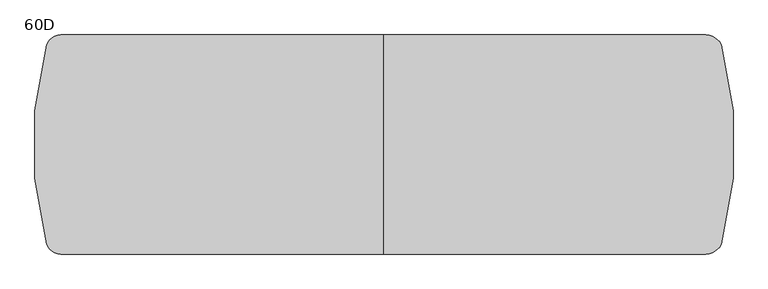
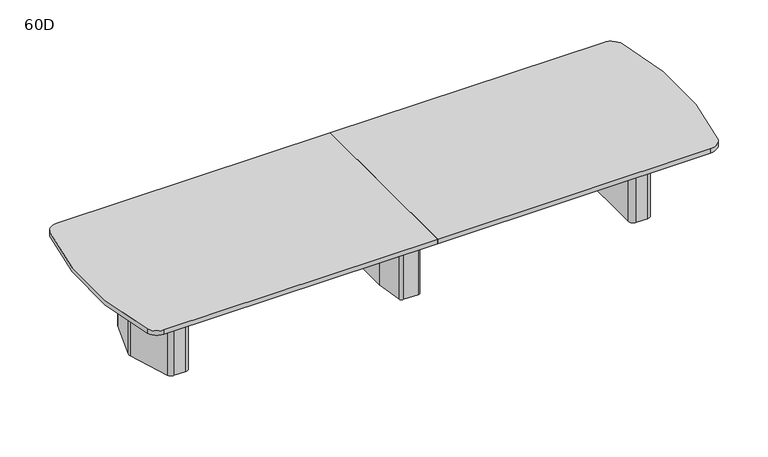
"""IFC4 building model written with IfcOpenShell, lengths in millimetres: furniture geometry, Coalesse_AM_Table_Conference_ETable2_SoftRadiused_16ft_ThreeBase : 60D."""

import ifcopenshell
import ifcopenshell.guid

model = None  # the IFC model being written
_history = None  # IfcOwnerHistory: only IFC2X3 demands one
_inside = {}  # id of a spatial element -> (the spatial element, [elements in it])
_under = {}  # id of a project, library or spatial element -> (it, [spatial elements below it])
_declared = {}  # id of a project -> (the project, [libraries it declares])
_typed = {}  # id of a type object -> (the type object, [elements of that type])
_made_of = {}  # id of a material, layer set ... -> (it, [elements and type objects made of it])


def new_model(schema):
    """Start an empty IFC model of exactly this schema.

    Asked for "IFC4X3", IfcOpenShell would pick the latest addendum, in which some entities
    have other attributes; the version numbers below select the first issue.
    IFC2X3 requires an IfcOwnerHistory on every rooted entity: one is made here for all.
    """
    global model, _history
    if schema == "IFC4X3":
        model = ifcopenshell.file(schema_version=(4, 3, 0, 0))
    else:
        model = ifcopenshell.file(schema=schema)
    _inside.clear()
    _under.clear()
    _declared.clear()
    _typed.clear()
    _made_of.clear()
    _history = None
    if model.schema == "IFC2X3":
        org = make("IfcOrganization", Name="unknown")
        user = make(
            "IfcPersonAndOrganization",
            ThePerson=make("IfcPerson", FamilyName="unknown"),
            TheOrganization=org,
        )
        app = make(
            "IfcApplication",
            ApplicationDeveloper=org,
            Version="unknown",
            ApplicationFullName="unknown",
            ApplicationIdentifier="unknown",
        )
        _history = make(
            "IfcOwnerHistory",
            OwningUser=user,
            OwningApplication=app,
            ChangeAction="ADDED",
            CreationDate=0,
        )
    return model


def make(cls, **values):
    """One entity of the class cls with the attributes given. An attribute that is None is left unset."""
    return model.create_entity(
        cls, **{name: value for name, value in values.items() if value is not None}
    )


def rooted(cls, **values):
    """An entity with a GlobalId (a new one), such as an element, a storey or a relation."""
    return make(cls, GlobalId=ifcopenshell.guid.new(), OwnerHistory=_history, **values)


def si_unit(unit_type, name, prefix=None):
    """IfcSIUnit, for example si_unit("LENGTHUNIT", "METRE", prefix="MILLI")."""
    return make("IfcSIUnit", UnitType=unit_type, Prefix=prefix, Name=name)


def assignment(units):
    """IfcUnitAssignment: the units of a project."""
    return None if units is None else make("IfcUnitAssignment", Units=units)


def point(xyz):
    """IfcCartesianPoint."""
    return None if xyz is None else make("IfcCartesianPoint", Coordinates=xyz)


def direction(xyz):
    """IfcDirection."""
    return None if xyz is None else make("IfcDirection", DirectionRatios=xyz)


def frame(location, z_axis=None, x_axis=None):
    """IfcAxis2Placement3D, a coordinate frame: its origin and axes. An axis left out is left unset."""
    return make(
        "IfcAxis2Placement3D",
        Location=point(location),
        Axis=direction(z_axis),
        RefDirection=direction(x_axis),
    )


def frame_2d(location, x_axis=None):
    """IfcAxis2Placement2D, a coordinate frame in the plane: its origin and x axis."""
    return make(
        "IfcAxis2Placement2D", Location=point(location), RefDirection=direction(x_axis)
    )


def origin():
    """The frame at (0, 0, 0) with its axes left unset."""
    return frame((0.0, 0.0, 0.0))


def origin_with_axes():
    """The frame at (0, 0, 0) with the z axis (0, 0, 1) and the x axis (1, 0, 0) written out."""
    return frame((0.0, 0.0, 0.0), z_axis=(0.0, 0.0, 1.0), x_axis=(1.0, 0.0, 0.0))


def place(relative_to, where):
    """IfcLocalPlacement: puts the frame where relative to a parent placement (None: the world)."""
    return make(
        "IfcLocalPlacement", PlacementRelTo=relative_to, RelativePlacement=where
    )


def context(
    kind, dimensions, precision=None, world=None, true_north=None, identifier=None
):
    """IfcGeometricRepresentationContext, for example the 3D "Model" context."""
    return make(
        "IfcGeometricRepresentationContext",
        ContextIdentifier=identifier,
        ContextType=kind,
        CoordinateSpaceDimension=dimensions,
        Precision=precision,
        WorldCoordinateSystem=world,
        TrueNorth=true_north,
    )


def project(units=None, contexts=None):
    """IfcProject with its units and contexts."""
    return rooted(
        "IfcProject",
        Name="project",
        RepresentationContexts=contexts,
        UnitsInContext=assignment(units),
    )


def spatial(cls, under=None, at=None, **own):
    """A site, building, storey or space (cls), placed at a placement, below another one or the project."""
    s = rooted(cls, ObjectPlacement=at, **own)
    if under is not None:
        _under.setdefault(under.id(), (under, []))[1].append(s)
    return s


def polyline(points):
    """IfcPolyline through the points."""
    return make("IfcPolyline", Points=[point(p) for p in points])


def circle_curve(where, radius):
    """IfcCircle in the frame where."""
    return make("IfcCircle", Position=where, Radius=radius)


def trimmed(basis, trim1, trim2, sense, master):
    """IfcTrimmedCurve: the piece of a basis curve between two trims."""
    return make(
        "IfcTrimmedCurve",
        BasisCurve=basis,
        Trim1=trim1,
        Trim2=trim2,
        SenseAgreement=sense,
        MasterRepresentation=master,
    )


def segment(curve, same_sense, transition):
    """IfcCompositeCurveSegment."""
    return make(
        "IfcCompositeCurveSegment",
        Transition=transition,
        SameSense=same_sense,
        ParentCurve=curve,
    )


def composite_curve(segments, self_intersect=None):
    """IfcCompositeCurve: segments joined end to end."""
    return make("IfcCompositeCurve", Segments=segments, SelfIntersect=self_intersect)


def outline(outer, holes=None, kind="AREA"):
    """IfcArbitraryClosedProfileDef: a profile drawn as a closed curve; with holes, ...WithVoids."""
    if holes is None:
        return make("IfcArbitraryClosedProfileDef", ProfileType=kind, OuterCurve=outer)
    return make(
        "IfcArbitraryProfileDefWithVoids",
        ProfileType=kind,
        OuterCurve=outer,
        InnerCurves=holes,
    )


def extrude(swept, where, along, depth):
    """IfcExtrudedAreaSolid: the profile swept, set in the frame where, extruded along a direction by depth."""
    return make(
        "IfcExtrudedAreaSolid",
        SweptArea=swept,
        Position=where,
        ExtrudedDirection=direction(along),
        Depth=depth,
    )


def shape(context_of_items, identifier, shape_type, items):
    """IfcShapeRepresentation: the items that make up one representation, for example the "Body"."""
    return make(
        "IfcShapeRepresentation",
        ContextOfItems=context_of_items,
        RepresentationIdentifier=identifier,
        RepresentationType=shape_type,
        Items=items,
    )


def source(mapping_origin, context_of_items, identifier, shape_type, items):
    """IfcRepresentationMap: a shape defined once, which mapped items show again and again."""
    return make(
        "IfcRepresentationMap",
        MappingOrigin=mapping_origin,
        MappedRepresentation=shape(context_of_items, identifier, shape_type, items),
    )


def transform(
    local_origin,
    x_axis=None,
    y_axis=None,
    z_axis=None,
    scale=None,
    scale2=None,
    scale3=None,
    uniform=True,
):
    """IfcCartesianTransformationOperator3D, or its non-uniform kind. x_axis, y_axis, z_axis: its Axis1, 2, 3."""
    if uniform:
        return make(
            "IfcCartesianTransformationOperator3D",
            Axis1=direction(x_axis),
            Axis2=direction(y_axis),
            LocalOrigin=point(local_origin),
            Scale=scale,
            Axis3=direction(z_axis),
        )
    return make(
        "IfcCartesianTransformationOperator3DnonUniform",
        Axis1=direction(x_axis),
        Axis2=direction(y_axis),
        LocalOrigin=point(local_origin),
        Scale=scale,
        Axis3=direction(z_axis),
        Scale2=scale2,
        Scale3=scale3,
    )


def mapped(mapping_source, mapping_target):
    """IfcMappedItem: shows the shape of a source again, moved by a transform."""
    return make(
        "IfcMappedItem", MappingSource=mapping_source, MappingTarget=mapping_target
    )


def made_of(thing, what):
    """Note that an element or type object is made of a material, layer set ...; save() writes the relation."""
    if what is not None:
        _made_of.setdefault(what.id(), (what, []))[1].append(thing)
    return thing


def element(
    cls,
    number,
    at=None,
    inside=None,
    cuts=None,
    type_object=None,
    material=None,
    context=None,
    identifier="Body",
    shape_type=None,
    held_by="IfcProductDefinitionShape",
    body=None,
    shapes=None,
    **own,
):
    """One element of the class cls, such as IfcWall. Its Tag is "e" and its number.

    at: its placement. inside: the storey or other place that contains it. cuts: it is an
    opening in that element (IfcRelVoidsElement). A single representation is given by context,
    identifier, shape_type and body (its items); several are given by shapes. held_by: the class
    of the entity that holds the representations. save() writes the other relations.
    """
    e = rooted(cls, Tag="e%d" % number, ObjectPlacement=at, **own)
    if body is not None:
        shapes = [shape(context, identifier, shape_type, body)]
    if shapes is not None:
        e.Representation = make(held_by, Representations=shapes)
    if inside is not None:
        _inside.setdefault(inside.id(), (inside, []))[1].append(e)
    if cuts is not None:
        rooted(
            "IfcRelVoidsElement", RelatingBuildingElement=cuts, RelatedOpeningElement=e
        )
    if type_object is not None:
        _typed.setdefault(type_object.id(), (type_object, []))[1].append(e)
    return made_of(e, material)


def aggregate(whole, parts):
    """IfcRelAggregates: a whole, such as a stair, and the parts it consists of."""
    return rooted("IfcRelAggregates", RelatingObject=whole, RelatedObjects=parts)


def save(model, path):
    """Write the relations noted so far, then the file.

    IfcRelAggregates (storeys below a building ...), IfcRelContainedInSpatialStructure (elements
    in a storey), IfcRelDefinesByType, IfcRelAssociatesMaterial and IfcRelDeclares: one each for
    every whole, place, type object, material and project.
    """
    for whole, parts in _under.values():
        aggregate(whole, parts)
    for where, things in _inside.values():
        rooted(
            "IfcRelContainedInSpatialStructure",
            RelatedElements=things,
            RelatingStructure=where,
        )
    for kind, things in _typed.values():
        rooted("IfcRelDefinesByType", RelatedObjects=things, RelatingType=kind)
    for what, things in _made_of.values():
        rooted("IfcRelAssociatesMaterial", RelatedObjects=things, RelatingMaterial=what)
    for by, libraries in _declared.values():
        rooted("IfcRelDeclares", RelatingContext=by, RelatedDefinitions=libraries)
    model.write(path)


def plane_surface(at):
    """IfcPlane: the flat surface through the origin of the frame at, square to its z axis."""
    return make("IfcPlane", Position=at)


def cylinder_surface(at, radius):
    """IfcCylindricalSurface: all points at the distance radius from the z axis of the frame at."""
    return make("IfcCylindricalSurface", Position=at, Radius=radius)


def revolved_surface(curve, axis_point, axis_direction):
    """IfcSurfaceOfRevolution: the curve turned about the line through axis_point along axis_direction."""
    return make(
        "IfcSurfaceOfRevolution",
        SweptCurve=make("IfcArbitraryOpenProfileDef", ProfileType="CURVE", Curve=curve),
        AxisPosition=make("IfcAxis1Placement", Location=point(axis_point), Axis=direction(axis_direction)),
    )


def advanced_brep(points, edges, surfaces, faces):
    """IfcAdvancedBrep: a solid bounded by faces that lie on surfaces and meet in shared edges.

    An edge is (start, end): straight between two places in points (the first is 0);
    or (start, end, curve); or (start, end, curve, False) where it runs against its curve.
    A face is (place in surfaces, loops), or (place, loops, False) where it looks against
    its surface's normal. A loop lists edges by number (the first is 1), with a minus sign
    where the edge is run from its end to its start. The first loop is the outer one.
    """
    corners = [point(p) for p in points]
    vertices = [make("IfcVertexPoint", VertexGeometry=c) for c in corners]
    made = []
    for start, end, *more in edges:
        made.append(
            make(
                "IfcEdgeCurve",
                EdgeStart=vertices[start],
                EdgeEnd=vertices[end],
                EdgeGeometry=more[0] if more else make("IfcPolyline", Points=[corners[start], corners[end]]),
                SameSense=more[1] if len(more) > 1 else True,
            )
        )
    hull = []
    for where, loops, *sense in faces:
        bounds = []
        for j, loop in enumerate(loops):
            ring = [make("IfcOrientedEdge", EdgeElement=made[abs(k) - 1], Orientation=k > 0) for k in loop]
            bounds.append(
                make(
                    "IfcFaceOuterBound" if j == 0 else "IfcFaceBound",
                    Bound=make("IfcEdgeLoop", EdgeList=ring),
                    Orientation=True,
                )
            )
        hull.append(make("IfcAdvancedFace", Bounds=bounds, FaceSurface=surfaces[where], SameSense=sense[0] if sense else True))
    return make("IfcAdvancedBrep", Outer=make("IfcClosedShell", CfsFaces=hull))


def furniture_60d_4c5cccae(model_context):
    return source(origin(), model_context, "Body", "SolidModel", [
        advanced_brep(
        [(61.0357815, 381.0, 698.5), (-61.0357815, 381.0, 698.5), (-86.1885994, 359.1349332, 698.5), (-117.2278179, 138.2753661, 698.5), (-117.475, 134.740433, 698.5), (-117.475, -134.7404196, 698.5), (-117.2278463, -138.2751502, 698.5), (-86.1904395, -359.1347306, 698.5), (-61.0375932, -381.0, 698.5), (61.0375932, -381.0, 698.5), (86.1904395, -359.1347306, 698.5), (117.2278463, -138.2751502, 698.5), (117.475, -134.7404196, 698.5), (117.475, 134.740433, 698.5), (117.2278179, 138.2753661, 698.5), (86.1885994, 359.1349332, 698.5), (25.4, 314.325, 698.5), (50.8, 288.925, 698.5), (50.8, -288.925, 698.5), (25.4, -314.325, 698.5), (-25.4, -314.325, 698.5), (-50.8, -288.925, 698.5), (-50.8, 288.925, 698.5), (-25.4, 314.325, 698.5), (61.0357815, 381.0, 3.175), (86.1885994, 359.1349332, 3.175), (117.2278179, 138.2753661, 3.175), (117.475, 134.740433, 3.175), (117.475, -134.7404196, 3.175), (117.2278463, -138.2751502, 3.175), (86.1904395, -359.1347306, 3.175), (61.0375932, -381.0, 3.175), (-61.0375932, -381.0, 3.175), (-86.1904395, -359.1347306, 3.175), (-117.2278463, -138.2751502, 3.175), (-117.475, -134.7404196, 3.175), (-117.475, 134.740433, 3.175), (-117.2278179, 138.2753661, 3.175), (-86.1885994, 359.1349332, 3.175), (-61.0357815, 381.0, 3.175), (25.4, 327.025, 3.175), (-25.4, 327.025, 3.175), (-63.5, 288.925, 3.175), (-63.5, -288.925, 3.175), (-25.4, -327.025, 3.175), (25.4, -327.025, 3.175), (63.5, -288.925, 3.175), (63.5, 288.925, 3.175), (25.4, 314.325, 3.175), (50.8, 288.925, 3.175), (50.8, -288.925, 3.175), (25.4, -314.325, 3.175), (-25.4, -314.325, 3.175), (-50.8, -288.925, 3.175), (-50.8, 288.925, 3.175), (-25.4, 314.325, 3.175), (25.4, 327.025, 0.0), (63.5, 288.925, 0.0), (63.5, -288.925, 0.0), (25.4, -327.025, 0.0), (-25.4, -327.025, 0.0), (-63.5, -288.925, 0.0), (-63.5, 288.925, 0.0), (-25.4, 327.025, 0.0)],
        [
            (0, 1),
            (1, 2, circle_curve(frame((-61.0357815, 355.6, 698.5), z_axis=(0.0, 0.0, 1.0), x_axis=(1.0, 0.0, 0.0)), 25.4)),
            (2, 3),
            (3, 4, circle_curve(frame((-92.075, 134.740433, 698.5), z_axis=(0.0, 0.0, 1.0), x_axis=(1.0, 0.0, 0.0)), 25.4)),
            (4, 5),
            (5, 6, circle_curve(frame((-92.075, -134.7404196, 698.5), z_axis=(0.0, 0.0, 1.0), x_axis=(1.0, 0.0, 0.0)), 25.4)),
            (6, 7),
            (7, 8, circle_curve(frame((-61.0375932, -355.6, 698.5), z_axis=(0.0, 0.0, 1.0), x_axis=(1.0, 0.0, 0.0)), 25.4)),
            (8, 9),
            (9, 10, circle_curve(frame((61.0375932, -355.6, 698.5), z_axis=(0.0, 0.0, 1.0), x_axis=(1.0, 0.0, 0.0)), 25.4)),
            (10, 11),
            (11, 12, circle_curve(frame((92.075, -134.7404196, 698.5), z_axis=(0.0, 0.0, 1.0), x_axis=(1.0, 0.0, 0.0)), 25.4)),
            (12, 13),
            (13, 14, circle_curve(frame((92.075, 134.740433, 698.5), z_axis=(0.0, 0.0, 1.0), x_axis=(1.0, 0.0, 0.0)), 25.4)),
            (14, 15),
            (15, 0, circle_curve(frame((61.0357815, 355.6, 698.5), z_axis=(0.0, 0.0, 1.0), x_axis=(1.0, 0.0, 0.0)), 25.4)),
            (16, 17, circle_curve(frame((25.4, 288.925, 698.5), z_axis=(0.0, 0.0, -1.0), x_axis=(1.0, 0.0, 0.0)), 25.4)),
            (17, 18),
            (18, 19, circle_curve(frame((25.4, -288.925, 698.5), z_axis=(0.0, 0.0, -1.0), x_axis=(1.0, 0.0, 0.0)), 25.4)),
            (19, 20),
            (20, 21, circle_curve(frame((-25.4, -288.925, 698.5), z_axis=(0.0, 0.0, -1.0), x_axis=(1.0, 0.0, 0.0)), 25.4)),
            (21, 22),
            (22, 23, circle_curve(frame((-25.4, 288.925, 698.5), z_axis=(0.0, 0.0, -1.0), x_axis=(1.0, 0.0, 0.0)), 25.4)),
            (23, 16),
            (24, 25, circle_curve(frame((61.0357815, 355.6, 3.175), z_axis=(0.0, 0.0, -1.0), x_axis=(1.0, 0.0, 0.0)), 25.4)),
            (25, 26),
            (26, 27, circle_curve(frame((92.075, 134.740433, 3.175), z_axis=(0.0, 0.0, -1.0), x_axis=(1.0, 0.0, 0.0)), 25.4)),
            (27, 28),
            (28, 29, circle_curve(frame((92.075, -134.7404196, 3.175), z_axis=(0.0, 0.0, -1.0), x_axis=(1.0, 0.0, 0.0)), 25.4)),
            (29, 30),
            (30, 31, circle_curve(frame((61.0375932, -355.6, 3.175), z_axis=(0.0, 0.0, -1.0), x_axis=(1.0, 0.0, 0.0)), 25.4)),
            (31, 32),
            (32, 33, circle_curve(frame((-61.0375932, -355.6, 3.175), z_axis=(0.0, 0.0, -1.0), x_axis=(1.0, 0.0, 0.0)), 25.4)),
            (33, 34),
            (34, 35, circle_curve(frame((-92.075, -134.7404196, 3.175), z_axis=(0.0, 0.0, -1.0), x_axis=(1.0, 0.0, 0.0)), 25.4)),
            (35, 36),
            (36, 37, circle_curve(frame((-92.075, 134.740433, 3.175), z_axis=(0.0, 0.0, -1.0), x_axis=(1.0, 0.0, 0.0)), 25.4)),
            (37, 38),
            (38, 39, circle_curve(frame((-61.0357815, 355.6, 3.175), z_axis=(0.0, 0.0, -1.0), x_axis=(1.0, 0.0, 0.0)), 25.4)),
            (39, 24),
            (40, 41),
            (41, 42, circle_curve(frame((-25.4, 288.925, 3.175), z_axis=(0.0, 0.0, 1.0), x_axis=(1.0, 0.0, 0.0)), 38.1)),
            (42, 43),
            (43, 44, circle_curve(frame((-25.4, -288.925, 3.175), z_axis=(0.0, 0.0, 1.0), x_axis=(1.0, 0.0, 0.0)), 38.1)),
            (44, 45),
            (45, 46, circle_curve(frame((25.4, -288.925, 3.175), z_axis=(0.0, 0.0, 1.0), x_axis=(1.0, 0.0, 0.0)), 38.1)),
            (46, 47),
            (47, 40, circle_curve(frame((25.4, 288.925, 3.175), z_axis=(0.0, 0.0, 1.0), x_axis=(1.0, 0.0, 0.0)), 38.1)),
            (0, 24),
            (39, 1),
            (38, 2),
            (37, 3),
            (36, 4),
            (35, 5),
            (34, 6),
            (33, 7),
            (32, 8),
            (31, 9),
            (30, 10),
            (29, 11),
            (28, 12),
            (27, 13),
            (26, 14),
            (25, 15),
            (16, 48),
            (48, 49, circle_curve(frame((25.4, 288.925, 3.175), z_axis=(0.0, 0.0, -1.0), x_axis=(1.0, 0.0, 0.0)), 25.4)),
            (49, 17),
            (49, 50),
            (50, 18),
            (50, 51, circle_curve(frame((25.4, -288.925, 3.175), z_axis=(0.0, 0.0, -1.0), x_axis=(1.0, 0.0, 0.0)), 25.4)),
            (51, 19),
            (51, 52),
            (52, 20),
            (52, 53, circle_curve(frame((-25.4, -288.925, 3.175), z_axis=(0.0, 0.0, -1.0), x_axis=(1.0, 0.0, 0.0)), 25.4)),
            (53, 21),
            (53, 54),
            (54, 22),
            (54, 55, circle_curve(frame((-25.4, 288.925, 3.175), z_axis=(0.0, 0.0, -1.0), x_axis=(1.0, 0.0, 0.0)), 25.4)),
            (55, 23),
            (55, 48),
            (56, 57, circle_curve(frame((25.4, 288.925, 0.0), z_axis=(0.0, 0.0, -1.0), x_axis=(1.0, 0.0, 0.0)), 38.1)),
            (57, 58),
            (58, 59, circle_curve(frame((25.4, -288.925, 0.0), z_axis=(0.0, 0.0, -1.0), x_axis=(1.0, 0.0, 0.0)), 38.1)),
            (59, 60),
            (60, 61, circle_curve(frame((-25.4, -288.925, 0.0), z_axis=(0.0, 0.0, -1.0), x_axis=(1.0, 0.0, 0.0)), 38.1)),
            (61, 62),
            (62, 63, circle_curve(frame((-25.4, 288.925, 0.0), z_axis=(0.0, 0.0, -1.0), x_axis=(1.0, 0.0, 0.0)), 38.1)),
            (63, 56),
            (63, 41),
            (40, 56),
            (62, 42),
            (61, 43),
            (60, 44),
            (59, 45),
            (58, 46),
            (57, 47),
        ],
        [
            plane_surface(frame((-1524.0, 381.0, 698.5), z_axis=(0.0, 0.0, 1.0), x_axis=(-1.0, 0.0, 0.0))),
            plane_surface(frame((-1524.0, 381.0, 3.175), z_axis=(0.0, 0.0, -1.0), x_axis=(1.0, 0.0, 0.0))),
            plane_surface(frame((61.0357815, 381.0, 698.5), z_axis=(0.0, 1.0, 0.0), x_axis=(0.0, 0.0, -1.0))),
            cylinder_surface(frame((-61.0357815, 355.6, 3.175), z_axis=(0.0, 0.0, 1.0), x_axis=(1.0, 0.0, 0.0)), 25.4),
            plane_surface(frame((-86.1885994, 359.1349332, 698.5), z_axis=(-0.9902684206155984, 0.13917059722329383, 0.0), x_axis=(0.0, 0.0, -1.0))),
            cylinder_surface(frame((-92.075, 134.740433, 3.175), z_axis=(0.0, 0.0, 1.0), x_axis=(1.0, 0.0, 0.0)), 25.4),
            plane_surface(frame((-117.475, 134.740433, 698.5), z_axis=(-1.0, 0.0, 0.0), x_axis=(0.0, 0.0, -1.0))),
            cylinder_surface(frame((-92.075, -134.7404196, 3.175), z_axis=(0.0, 0.0, 1.0), x_axis=(1.0, 0.0, 0.0)), 25.4),
            plane_surface(frame((-117.2278463, -138.2751502, 698.5), z_axis=(-0.9902695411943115, -0.1391626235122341, 0.0), x_axis=(0.0, 0.0, -1.0))),
            cylinder_surface(frame((-61.0375932, -355.6, 3.175), z_axis=(0.0, 0.0, 1.0), x_axis=(1.0, 0.0, 0.0)), 25.4),
            plane_surface(frame((-61.0375932, -381.0, 698.5), z_axis=(0.0, -1.0, 0.0), x_axis=(0.0, 0.0, -1.0))),
            cylinder_surface(frame((61.0375932, -355.6, 3.175), z_axis=(0.0, 0.0, 1.0), x_axis=(1.0, 0.0, 0.0)), 25.4),
            plane_surface(frame((86.1904395, -359.1347306, 698.5), z_axis=(0.9902695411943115, -0.1391626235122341, 0.0), x_axis=(0.0, 0.0, -1.0))),
            cylinder_surface(frame((92.075, -134.7404196, 3.175), z_axis=(0.0, 0.0, 1.0), x_axis=(1.0, 0.0, 0.0)), 25.4),
            plane_surface(frame((117.475, -134.7404196, 698.5), z_axis=(1.0, 0.0, 0.0), x_axis=(0.0, 0.0, -1.0))),
            cylinder_surface(frame((92.075, 134.740433, 3.175), z_axis=(0.0, 0.0, 1.0), x_axis=(1.0, 0.0, 0.0)), 25.4),
            plane_surface(frame((117.2278179, 138.2753661, 698.5), z_axis=(0.9902684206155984, 0.13917059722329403, 0.0), x_axis=(0.0, 0.0, -1.0))),
            cylinder_surface(frame((61.0357815, 355.6, 3.175), z_axis=(0.0, 0.0, 1.0), x_axis=(1.0, 0.0, 0.0)), 25.4),
            revolved_surface(polyline([(50.8, 288.925, 3.175), (50.8, 288.925, 698.5)]), (25.4, 288.925, 0.0), (0.0, 0.0, -1.0)),
            plane_surface(frame((50.8, 288.925, 698.5), z_axis=(-1.0, 0.0, 0.0), x_axis=(0.0, 0.0, -1.0))),
            revolved_surface(polyline([(50.8, -288.925, 3.175), (50.8, -288.925, 698.5)]), (25.4, -288.925, 0.0), (0.0, 0.0, -1.0)),
            plane_surface(frame((25.4, -314.325, 698.5), z_axis=(0.0, 1.0, 0.0), x_axis=(0.0, 0.0, -1.0))),
            revolved_surface(polyline([(0.0, -288.925, 3.175), (0.0, -288.925, 698.5)]), (-25.4, -288.925, 0.0), (0.0, 0.0, -1.0)),
            plane_surface(frame((-50.8, -288.925, 698.5), z_axis=(1.0, 0.0, 0.0), x_axis=(0.0, 0.0, -1.0))),
            revolved_surface(polyline([(0.0, 288.925, 3.175), (0.0, 288.925, 698.5)]), (-25.4, 288.925, 0.0), (0.0, 0.0, -1.0)),
            plane_surface(frame((-25.4, 314.325, 698.5), z_axis=(0.0, -1.0, 0.0), x_axis=(0.0, 0.0, -1.0))),
            plane_surface(frame((-50.8, 327.025, 3.175), z_axis=(0.0, 0.0, 1.0), x_axis=(-1.0, 0.0, 0.0))),
            plane_surface(frame((-50.8, 327.025, 0.0), z_axis=(0.0, 0.0, -1.0), x_axis=(1.0, 0.0, 0.0))),
            plane_surface(frame((25.4, 327.025, 3.175), z_axis=(0.0, 1.0, 0.0), x_axis=(0.0, 0.0, -1.0))),
            cylinder_surface(frame((-25.4, 288.925, 0.0), z_axis=(0.0, 0.0, 1.0), x_axis=(1.0, 0.0, 0.0)), 38.1),
            plane_surface(frame((-63.5, 288.925, 3.175), z_axis=(-1.0, 0.0, 0.0), x_axis=(0.0, 0.0, -1.0))),
            cylinder_surface(frame((-25.4, -288.925, 0.0), z_axis=(0.0, 0.0, 1.0), x_axis=(1.0, 0.0, 0.0)), 38.1),
            plane_surface(frame((-25.4, -327.025, 3.175), z_axis=(0.0, -1.0, 0.0), x_axis=(0.0, 0.0, -1.0))),
            cylinder_surface(frame((25.4, -288.925, 0.0), z_axis=(0.0, 0.0, 1.0), x_axis=(1.0, 0.0, 0.0)), 38.1),
            plane_surface(frame((63.5, -288.925, 3.175), z_axis=(1.0, 0.0, 0.0), x_axis=(0.0, 0.0, -1.0))),
            cylinder_surface(frame((25.4, 288.925, 0.0), z_axis=(0.0, 0.0, 1.0), x_axis=(1.0, 0.0, 0.0)), 38.1),
        ],
        [
            (0, [[1, 2, 3, 4, 5, 6, 7, 8, 9, 10, 11, 12, 13, 14, 15, 16], [17, 18, 19, 20, 21, 22, 23, 24]]),
            (1, [[25, 26, 27, 28, 29, 30, 31, 32, 33, 34, 35, 36, 37, 38, 39, 40], [41, 42, 43, 44, 45, 46, 47, 48]]),
            (2, [[-1, 49, -40, 50]]),
            (3, [[-2, -50, -39, 51]]),
            (4, [[-3, -51, -38, 52]]),
            (5, [[-4, -52, -37, 53]]),
            (6, [[-5, -53, -36, 54]]),
            (7, [[-6, -54, -35, 55]]),
            (8, [[-7, -55, -34, 56]]),
            (9, [[-8, -56, -33, 57]]),
            (10, [[-9, -57, -32, 58]]),
            (11, [[-10, -58, -31, 59]]),
            (12, [[-11, -59, -30, 60]]),
            (13, [[-12, -60, -29, 61]]),
            (14, [[-13, -61, -28, 62]]),
            (15, [[-14, -62, -27, 63]]),
            (16, [[-15, -63, -26, 64]]),
            (17, [[-16, -64, -25, -49]]),
            (18, [[-17, 65, 66, 67]]),
            (19, [[-18, -67, 68, 69]]),
            (20, [[-19, -69, 70, 71]]),
            (21, [[-20, -71, 72, 73]]),
            (22, [[-21, -73, 74, 75]]),
            (23, [[-22, -75, 76, 77]]),
            (24, [[-23, -77, 78, 79]]),
            (25, [[-24, -79, 80, -65]]),
            (26, [[-66, -80, -78, -76, -74, -72, -70, -68]]),
            (27, [[81, 82, 83, 84, 85, 86, 87, 88]]),
            (28, [[-88, 89, -41, 90]]),
            (29, [[-87, 91, -42, -89]]),
            (30, [[-86, 92, -43, -91]]),
            (31, [[-85, 93, -44, -92]]),
            (32, [[-84, 94, -45, -93]]),
            (33, [[-83, 95, -46, -94]]),
            (34, [[-82, 96, -47, -95]]),
            (35, [[-81, -90, -48, -96]]),
        ],
    ),
        extrude(outline(composite_curve([segment(polyline([(2036.7625, 101.7236478), (2036.7625, -97.2761514)]), True, "CONTINUOUS"), segment(trimmed(circle_curve(frame_2d((1998.6625, -97.2761514)), 38.1), [point((2036.7625, -97.2761514))], [point((2034.9991129, -108.7330515))], False, "CARTESIAN"), True, "CONTINUOUS"), segment(polyline([(2034.9991129, -108.7330515), (1976.5745591, -294.0319001)]), True, "CONTINUOUS"), segment(trimmed(circle_curve(frame_2d((1940.2379462, -282.575)), 38.1), [point((1976.5745591, -294.0319001))], [point((1940.2379462, -320.675))], False, "CARTESIAN"), True, "CONTINUOUS"), segment(polyline([(1940.2379462, -320.675), (1873.25, -320.675)]), True, "CONTINUOUS"), segment(trimmed(circle_curve(frame_2d((1873.25, -282.575)), 38.1), [point((1873.25, -320.675))], [point((1835.15, -282.575))], False, "CARTESIAN"), True, "CONTINUOUS"), segment(polyline([(1835.15, -282.575), (1835.15, 282.575)]), True, "CONTINUOUS"), segment(trimmed(circle_curve(frame_2d((1873.25, 282.575)), 38.1), [point((1835.15, 282.575))], [point((1873.25, 320.675))], False, "CARTESIAN"), True, "CONTINUOUS"), segment(polyline([(1873.25, 320.675), (1943.9873998, 320.675)]), True, "CONTINUOUS"), segment(trimmed(circle_curve(frame_2d((1943.9873998, 282.575)), 38.1), [point((1943.9873998, 320.675))], [point((1980.4572049, 293.6005756))], False, "CARTESIAN"), True, "CONTINUOUS"), segment(polyline([(1980.4572049, 293.6005756), (2035.1323051, 112.7492234)]), True, "CONTINUOUS"), segment(trimmed(circle_curve(frame_2d((1998.6625, 101.7236478)), 38.1), [point((2035.1323051, 112.7492234))], [point((2036.7625, 101.7236478))], False, "CARTESIAN"), True, "CONTINUOUS")], self_intersect=False)), origin_with_axes(), (0.0, 0.0, 1.0), 3.175),
        extrude(outline(composite_curve([segment(polyline([(1857.375, 381.0), (1945.5221663, 381.0)]), True, "CONTINUOUS"), segment(trimmed(circle_curve(frame_2d((1945.5221663, 339.725)), 41.275), [point((1945.5221663, 381.0))], [point((1984.8868303, 352.1366418))], False, "CARTESIAN"), True, "CONTINUOUS"), segment(polyline([(1984.8868303, 352.1366418), (2092.0018053, 12.4116418)]), True, "CONTINUOUS"), segment(trimmed(circle_curve(frame_2d((2052.6371413, 0.0)), 41.275), [point((2092.0018053, 12.4116418))], [point((2092.0018053, -12.4116418))], False, "CARTESIAN"), True, "CONTINUOUS"), segment(polyline([(2092.0018053, -12.4116418), (1984.8868303, -352.1366418)]), True, "CONTINUOUS"), segment(trimmed(circle_curve(frame_2d((1945.5221663, -339.725)), 41.275), [point((1984.8868303, -352.1366418))], [point((1945.5221663, -381.0))], False, "CARTESIAN"), True, "CONTINUOUS"), segment(polyline([(1945.5221663, -381.0), (1851.025, -381.0)]), True, "CONTINUOUS"), segment(trimmed(circle_curve(frame_2d((1851.025, -339.725)), 41.275), [point((1851.025, -381.0))], [point((1809.75, -339.725))], False, "CARTESIAN"), True, "CONTINUOUS"), segment(polyline([(1809.75, -339.725), (1809.75, 333.375)]), True, "CONTINUOUS"), segment(trimmed(circle_curve(frame_2d((1857.375, 333.375)), 47.625), [point((1809.75, 333.375))], [point((1857.375, 381.0))], False, "CARTESIAN"), True, "CONTINUOUS")], self_intersect=False), holes=[composite_curve([segment(trimmed(circle_curve(frame_2d((1873.25, -282.575)), 25.4), [point((1847.85, -282.575))], [point((1873.25, -307.975))], True, "CARTESIAN"), True, "CONTINUOUS"), segment(polyline([(1873.25, -307.975), (1940.2379462, -307.975)]), True, "CONTINUOUS"), segment(trimmed(circle_curve(frame_2d((1940.2379462, -282.575)), 25.4), [point((1940.2379462, -307.975))], [point((1964.4623548, -290.2129334))], True, "CARTESIAN"), True, "CONTINUOUS"), segment(polyline([(1964.4623548, -290.2129334), (2022.8869086, -104.9140848)]), True, "CONTINUOUS"), segment(trimmed(circle_curve(frame_2d((1998.6625, -97.2761514)), 25.4), [point((2022.8869086, -104.9140848))], [point((2024.0625, -97.2761514))], True, "CARTESIAN"), True, "CONTINUOUS"), segment(polyline([(2024.0625, -97.2761514), (2024.0625, 101.7236478)]), True, "CONTINUOUS"), segment(trimmed(circle_curve(frame_2d((1998.6625, 101.7236478)), 25.4), [point((2024.0625, 101.7236478))], [point((2022.9757034, 109.0740316))], True, "CARTESIAN"), True, "CONTINUOUS"), segment(polyline([(2022.9757034, 109.0740316), (1968.3006032, 289.9253837)]), True, "CONTINUOUS"), segment(trimmed(circle_curve(frame_2d((1943.9873998, 282.575)), 25.4), [point((1968.3006032, 289.9253837))], [point((1943.9873998, 307.975))], True, "CARTESIAN"), True, "CONTINUOUS"), segment(polyline([(1943.9873998, 307.975), (1873.25, 307.975)]), True, "CONTINUOUS"), segment(trimmed(circle_curve(frame_2d((1873.25, 282.575)), 25.4), [point((1873.25, 307.975))], [point((1847.85, 282.575))], True, "CARTESIAN"), True, "CONTINUOUS"), segment(polyline([(1847.85, 282.575), (1847.85, -282.575)]), True, "CONTINUOUS")], self_intersect=False)]), frame((0.0, 0.0, 3.175), z_axis=(0.0, 0.0, 1.0), x_axis=(1.0, 0.0, 0.0)), (0.0, 0.0, 1.0), 695.325),
        extrude(outline(composite_curve([segment(trimmed(circle_curve(frame_2d((-1998.6625, 101.7236478)), 38.1), [point((-2036.7625, 101.7236478))], [point((-2035.1323051, 112.7492234))], False, "CARTESIAN"), True, "CONTINUOUS"), segment(polyline([(-2035.1323051, 112.7492234), (-1980.4572049, 293.6005756)]), True, "CONTINUOUS"), segment(trimmed(circle_curve(frame_2d((-1943.9873998, 282.575)), 38.1), [point((-1980.4572049, 293.6005756))], [point((-1943.9873998, 320.675))], False, "CARTESIAN"), True, "CONTINUOUS"), segment(polyline([(-1943.9873998, 320.675), (-1873.25, 320.675)]), True, "CONTINUOUS"), segment(trimmed(circle_curve(frame_2d((-1873.25, 282.575)), 38.1), [point((-1873.25, 320.675))], [point((-1835.15, 282.575))], False, "CARTESIAN"), True, "CONTINUOUS"), segment(polyline([(-1835.15, 282.575), (-1835.15, -282.575)]), True, "CONTINUOUS"), segment(trimmed(circle_curve(frame_2d((-1873.25, -282.575)), 38.1), [point((-1835.15, -282.575))], [point((-1873.25, -320.675))], False, "CARTESIAN"), True, "CONTINUOUS"), segment(polyline([(-1873.25, -320.675), (-1940.2379462, -320.675)]), True, "CONTINUOUS"), segment(trimmed(circle_curve(frame_2d((-1940.2379462, -282.575)), 38.1), [point((-1940.2379462, -320.675))], [point((-1976.5745591, -294.0319001))], False, "CARTESIAN"), True, "CONTINUOUS"), segment(polyline([(-1976.5745591, -294.0319001), (-2034.9991129, -108.7330515)]), True, "CONTINUOUS"), segment(trimmed(circle_curve(frame_2d((-1998.6625, -97.2761514)), 38.1), [point((-2034.9991129, -108.7330515))], [point((-2036.7625, -97.2761514))], False, "CARTESIAN"), True, "CONTINUOUS"), segment(polyline([(-2036.7625, -97.2761514), (-2036.7625, 101.7236478)]), True, "CONTINUOUS")], self_intersect=False)), origin_with_axes(), (0.0, 0.0, 1.0), 3.175),
        extrude(outline(composite_curve([segment(trimmed(circle_curve(frame_2d((-1857.375, 333.375)), 47.625), [point((-1857.375, 381.0))], [point((-1809.75, 333.375))], False, "CARTESIAN"), True, "CONTINUOUS"), segment(polyline([(-1809.75, 333.375), (-1809.75, -339.725)]), True, "CONTINUOUS"), segment(trimmed(circle_curve(frame_2d((-1851.025, -339.725)), 41.275), [point((-1809.75, -339.725))], [point((-1851.025, -381.0))], False, "CARTESIAN"), True, "CONTINUOUS"), segment(polyline([(-1851.025, -381.0), (-1945.5221663, -381.0)]), True, "CONTINUOUS"), segment(trimmed(circle_curve(frame_2d((-1945.5221663, -339.725)), 41.275), [point((-1945.5221663, -381.0))], [point((-1984.8868303, -352.1366418))], False, "CARTESIAN"), True, "CONTINUOUS"), segment(polyline([(-1984.8868303, -352.1366418), (-2092.0018053, -12.4116418)]), True, "CONTINUOUS"), segment(trimmed(circle_curve(frame_2d((-2052.6371413, 0.0)), 41.275), [point((-2092.0018053, -12.4116418))], [point((-2092.0018053, 12.4116418))], False, "CARTESIAN"), True, "CONTINUOUS"), segment(polyline([(-2092.0018053, 12.4116418), (-1984.8868303, 352.1366418)]), True, "CONTINUOUS"), segment(trimmed(circle_curve(frame_2d((-1945.5221663, 339.725)), 41.275), [point((-1984.8868303, 352.1366418))], [point((-1945.5221663, 381.0))], False, "CARTESIAN"), True, "CONTINUOUS"), segment(polyline([(-1945.5221663, 381.0), (-1857.375, 381.0)]), True, "CONTINUOUS")], self_intersect=False), holes=[composite_curve([segment(polyline([(-1847.85, -282.575), (-1847.85, 282.575)]), True, "CONTINUOUS"), segment(trimmed(circle_curve(frame_2d((-1873.25, 282.575)), 25.4), [point((-1847.85, 282.575))], [point((-1873.25, 307.975))], True, "CARTESIAN"), True, "CONTINUOUS"), segment(polyline([(-1873.25, 307.975), (-1943.9873998, 307.975)]), True, "CONTINUOUS"), segment(trimmed(circle_curve(frame_2d((-1943.9873998, 282.575)), 25.4), [point((-1943.9873998, 307.975))], [point((-1968.3006032, 289.9253837))], True, "CARTESIAN"), True, "CONTINUOUS"), segment(polyline([(-1968.3006032, 289.9253837), (-2022.9757034, 109.0740316)]), True, "CONTINUOUS"), segment(trimmed(circle_curve(frame_2d((-1998.6625, 101.7236478)), 25.4), [point((-2022.9757034, 109.0740316))], [point((-2024.0625, 101.7236478))], True, "CARTESIAN"), True, "CONTINUOUS"), segment(polyline([(-2024.0625, 101.7236478), (-2024.0625, -97.2761514)]), True, "CONTINUOUS"), segment(trimmed(circle_curve(frame_2d((-1998.6625, -97.2761514)), 25.4), [point((-2024.0625, -97.2761514))], [point((-2022.8869086, -104.9140848))], True, "CARTESIAN"), True, "CONTINUOUS"), segment(polyline([(-2022.8869086, -104.9140848), (-1964.4623548, -290.2129334)]), True, "CONTINUOUS"), segment(trimmed(circle_curve(frame_2d((-1940.2379462, -282.575)), 25.4), [point((-1964.4623548, -290.2129334))], [point((-1940.2379462, -307.975))], True, "CARTESIAN"), True, "CONTINUOUS"), segment(polyline([(-1940.2379462, -307.975), (-1873.25, -307.975)]), True, "CONTINUOUS"), segment(trimmed(circle_curve(frame_2d((-1873.25, -282.575)), 25.4), [point((-1873.25, -307.975))], [point((-1847.85, -282.575))], True, "CARTESIAN"), True, "CONTINUOUS")], self_intersect=False)]), frame((0.0, 0.0, 3.175), z_axis=(0.0, 0.0, 1.0), x_axis=(1.0, 0.0, 0.0)), (0.0, 0.0, 1.0), 695.325),
        extrude(outline(composite_curve([segment(trimmed(circle_curve(frame_2d((2239.4400422, 645.7866552)), 116.2133448), [point((2239.4400422, 762.0))], [point((2344.9932067, 694.4083682))], False, "CARTESIAN"), True, "CONTINUOUS"), segment(trimmed(circle_curve(frame_2d((-189.5020685, 0.0)), 2627.9020685), [point((2344.9932067, 694.4083682))], [point((2344.9932067, -694.4083682))], False, "CARTESIAN"), True, "CONTINUOUS"), segment(trimmed(circle_curve(frame_2d((2239.4400422, -645.7866552)), 116.2133448), [point((2344.9932067, -694.4083682))], [point((2239.4400422, -762.0))], False, "CARTESIAN"), True, "CONTINUOUS"), segment(polyline([(2239.4400422, -762.0), (0.0, -762.0), (0.0, 762.0), (2239.4400422, 762.0)]), True, "CONTINUOUS")], self_intersect=False)), frame((0.0, 0.0, 698.5), z_axis=(0.0, 0.0, 1.0), x_axis=(1.0, 0.0, 0.0)), (0.0, 0.0, 1.0), 38.1),
        extrude(outline(composite_curve([segment(polyline([(0.0, 762.0), (0.0, -762.0), (-2249.2540251, -762.0)]), True, "CONTINUOUS"), segment(trimmed(circle_curve(frame_2d((-2249.2540251, -660.4)), 101.6), [point((-2249.2540251, -762.0))], [point((-2344.9932067, -694.4083682))], False, "CARTESIAN"), True, "CONTINUOUS"), segment(trimmed(circle_curve(frame_2d((189.5020685, 0.0)), 2627.9020685), [point((-2344.9932067, -694.4083682))], [point((-2344.9932067, 694.4083682))], False, "CARTESIAN"), True, "CONTINUOUS"), segment(trimmed(circle_curve(frame_2d((-2249.2540251, 660.4)), 101.6), [point((-2344.9932067, 694.4083682))], [point((-2249.2540251, 762.0))], False, "CARTESIAN"), True, "CONTINUOUS"), segment(polyline([(-2249.2540251, 762.0), (0.0, 762.0)]), True, "CONTINUOUS")], self_intersect=False)), frame((0.0, 0.0, 698.5), z_axis=(0.0, 0.0, 1.0), x_axis=(1.0, 0.0, 0.0)), (0.0, 0.0, 1.0), 38.1),
        extrude(outline(polyline([(96.8375, 698.5), (103.1875, 698.5), (103.1875, 476.25), (-103.1875, 476.25), (-103.1875, 698.5), (-96.8375, 698.5), (-96.8375, 482.6), (96.8375, 482.6), (96.8375, 698.5)])), frame((-1809.75, 0.0, 0.0), z_axis=(1.0, 0.0, 0.0), x_axis=(0.0, 1.0, 0.0)), (0.0, 0.0, 1.0), 3619.5),
    ])


if __name__ == "__main__":
    model = new_model("IFC4")
    model_context = context("Model", 3, world=origin())
    ifc_project = project(units=[si_unit("LENGTHUNIT", "METRE", prefix="MILLI")], contexts=[model_context])
    site = spatial("IfcSite", under=ifc_project)
    building = spatial("IfcBuilding", under=site)
    placement = place(None, origin())
    furniture_60d_shape = furniture_60d_4c5cccae(model_context)
    element("IfcFurniture", 1, ObjectType="Coalesse_AM_Table_Conference_ETable2_SoftRadiused_16ft_ThreeBase : 60D", at=placement, inside=building, context=model_context, shape_type="MappedRepresentation", body=[
        mapped(furniture_60d_shape, transform((0.0, 0.0, 0.0), x_axis=(1.0, 0.0, 0.0), y_axis=(0.0, 1.0, 0.0), z_axis=(0.0, 0.0, 1.0))),
    ])
    save(model, "model.ifc")
